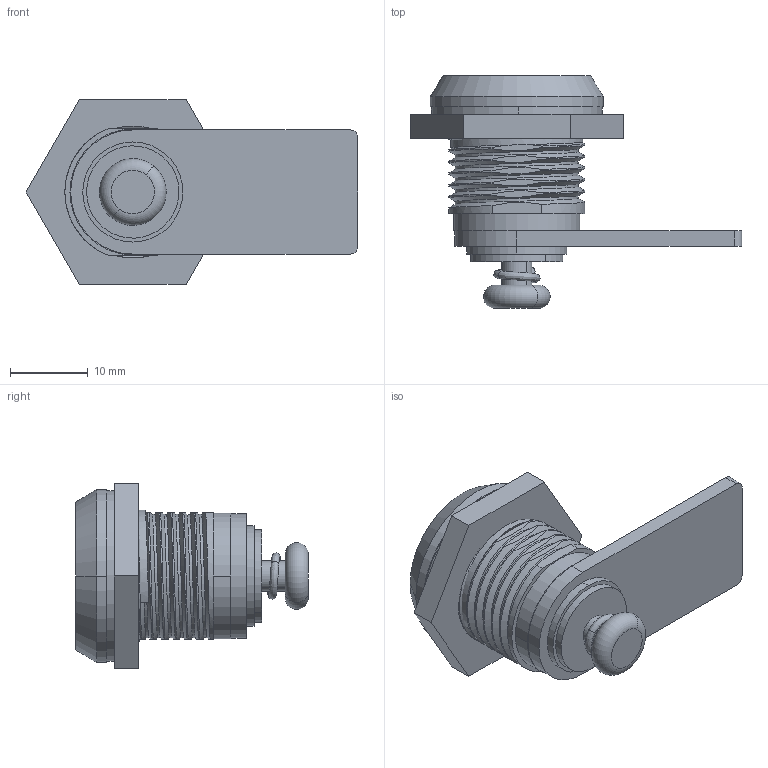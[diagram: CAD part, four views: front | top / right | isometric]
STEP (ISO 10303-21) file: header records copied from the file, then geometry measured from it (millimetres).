
FILE_DESCRIPTION (( 'STEP AP214' ), '1' );
FILE_NAME ('CUYUE.402-2.STEP', '2026-07-04T08:30:04', ( '' ), ( '' ), 'SwSTEP 2.0', 'SolidWorks 2020', '' );
FILE_SCHEMA (( 'AUTOMOTIVE_DESIGN' ));
Length unit declared in the file: millimetre
Products named in the file (7): 砎蝶菜え; CUYUE.402-2; M5郪磁蹟佪; 菜え; 坶え; M18蹟譫; 坶褲坶郋
Assembly tree (6 placements, depth 2):
  CUYUE.402-2
    坶褲坶郋
    菜え
    坶え
    砎蝶菜え
    M18蹟譫
    M5郪磁蹟佪
Bounding box: 42.74 x 30 x 23.8 mm (x, y, z)
Volume: 6882.6 mm3; surface area: 6970 mm2
Topology: 7 solids, 7 shells, 193 faces, 492 edges, 321 vertices
Faces by surface type: plane 86, cylinder 81, bspline 16, cone 6, torus 4
Entity records: 11188 total; most frequent: CARTESIAN_POINT 6594, ORIENTED_EDGE 980, DIRECTION 791, EDGE_CURVE 490, VERTEX_POINT 321, AXIS2_PLACEMENT_3D 286, LINE 219, VECTOR 219
